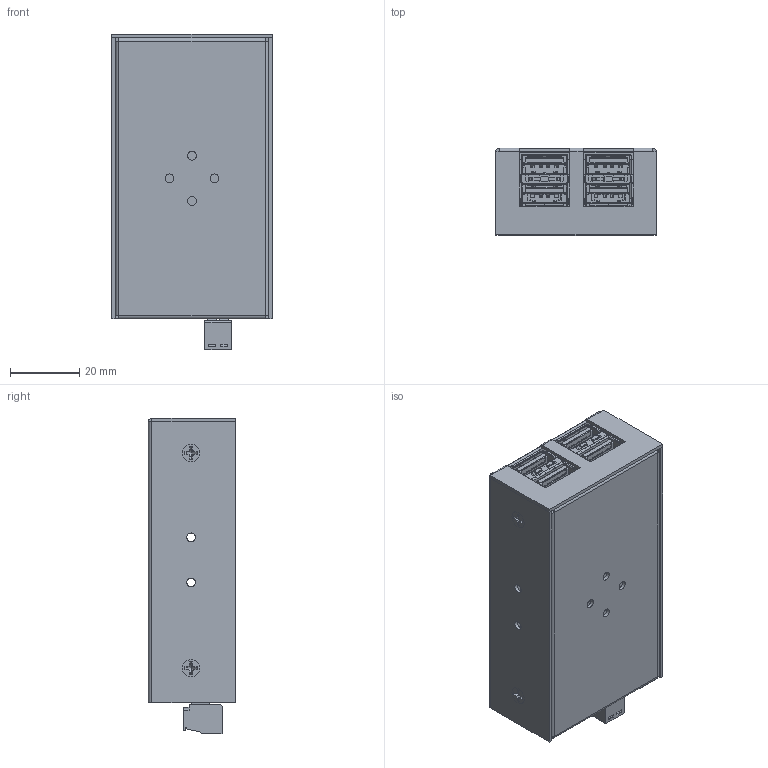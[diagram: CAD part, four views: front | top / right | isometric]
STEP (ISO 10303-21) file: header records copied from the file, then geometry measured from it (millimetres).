
FILE_DESCRIPTION(/* description */ (''),/* implementation_level */ '2;1');
FILE_NAME(/* name */ '/Users/leo/Desktop/Coolgear May/CG-MIC4P31HVV/CG-MIC4P31HVV v4.step',/* time_stamp */ '2021-05-13T15:29:47-04:00',/* author */ (''),/* organization */ (''),/* preprocessor_version */ 'ST-DEVELOPER v18.1',/* originating_system */ 'Autodesk Translation Framework v10.6.0.1341',/* authorisation */ '');
FILE_SCHEMA (('AUTOMOTIVE_DESIGN { 1 0 10303 214 3 1 1 }'));
Products named in the file (42): CG-MIC4P31HVV; Component1; 93090A547; USB Type B doble PCB Blue.0 v4; USB Type B doble PCB Blue.0 v4_1; pin1; pin4; pin3; pin2; pin5; pin6; Housing1; Housing; Housing2; Housing4; Shielding2; Shielding; USB type A 2 Gen Blue.2Gen1 v2; Housing1 (1); Housing2 (1); pin1 (1); shielding_1; pin2 (1); shielding_2; Housing3; pin3 (1); pin4 (1); pin5 (1); pin3_mir2; pin4_mir2; Connector Green 5 holes female v2; Connector green 5pines male.5 v1; LED 3mm v4; 3mm_LED; led_energy (1); led_energy; led_pin.1.1.1 (1); led_pin.1.1.1; led_pin.2.1 (1); led_pin.2.1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
Assembly tree (84 placements, depth 5):
  CG-MIC4P31HVV
    Component1
      93090A547  x3
    USB Type B doble PCB Blue.0 v4
      pin1  x5
      pin4  x5
      pin3  x2
      pin2  x2
      pin5  x2
      pin6  x2
      Housing1
      Housing
      Housing2
      Housing4
      Shielding2
      Shielding
    USB Type B doble PCB Blue.0 v4_1
      pin1  x5
      pin4  x5
      pin3  x2
      pin2  x2
      pin5  x2
      pin6  x2
      Housing1
      Housing
      Housing2
      Housing4
      Shielding2
      Shielding
    USB type A 2 Gen Blue.2Gen1 v2
      Housing1 (1)
      Housing2 (1)
      pin1 (1)  x2
      shielding_1
      pin2 (1)  x2
      shielding_2
      Housing3
      pin3 (1)
      pin4 (1)
      pin5 (1)
      pin3_mir2
      pin4_mir2
    Connector Green 5 holes female v2
    Connector green 5pines male.5 v1
    LED 3mm v4
      3mm_LED
        led_energy (1)
          led_energy
        led_pin.1.1.1 (1)
          led_pin.1.1.1
        led_pin.2.1 (1)
          led_pin.2.1
    Bolt M3X0.5 100Angle 5mmHead.5 China 120ang METRIC 18-8 SS FLAT HEAD 
PHIL MACHINE SCREW v2  x4
    Component42
Bounding box: 46.2 x 25.1 x 90.86 mm (x, y, z)
Volume: 27438 mm3; surface area: 50658.3 mm2
Topology: 2 solids, 110 shells, 5903 faces, 16797 edges, 10847 vertices
Faces by surface type: plane 4449, cylinder 1322, cone 67, bspline 53, torus 10, sphere 2
Full cylindrical faces by diameter (mm): 1.2 x2, 1.9 x2, 2 x4, 2.35 x12, 2.529 x9, 2.8 x4, 2.998 x1, 3 x19, 3.2 x3, 3.643 x1, 5.4 x3
Entity records: 198889 total; most frequent: CARTESIAN_POINT 41630, ORIENTED_EDGE 33572, DIRECTION 31173, EDGE_CURVE 16786, LINE 13549, VECTOR 13549, VERTEX_POINT 10847, AXIS2_PLACEMENT_3D 8812
